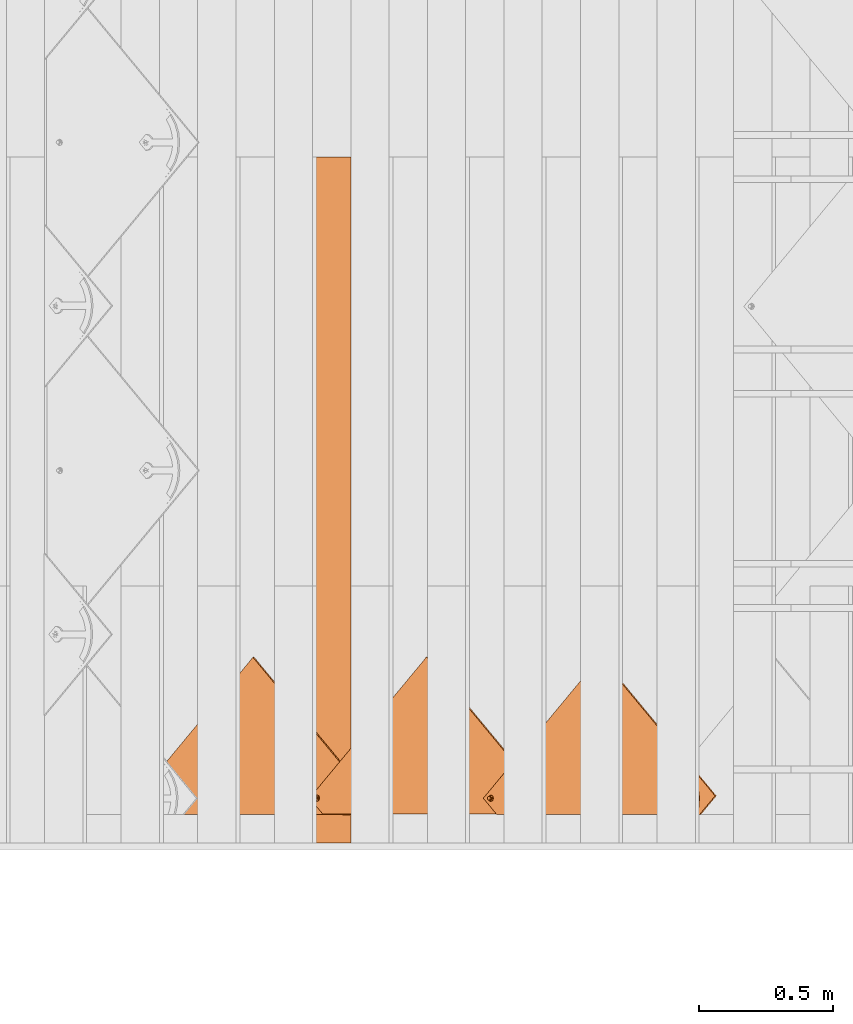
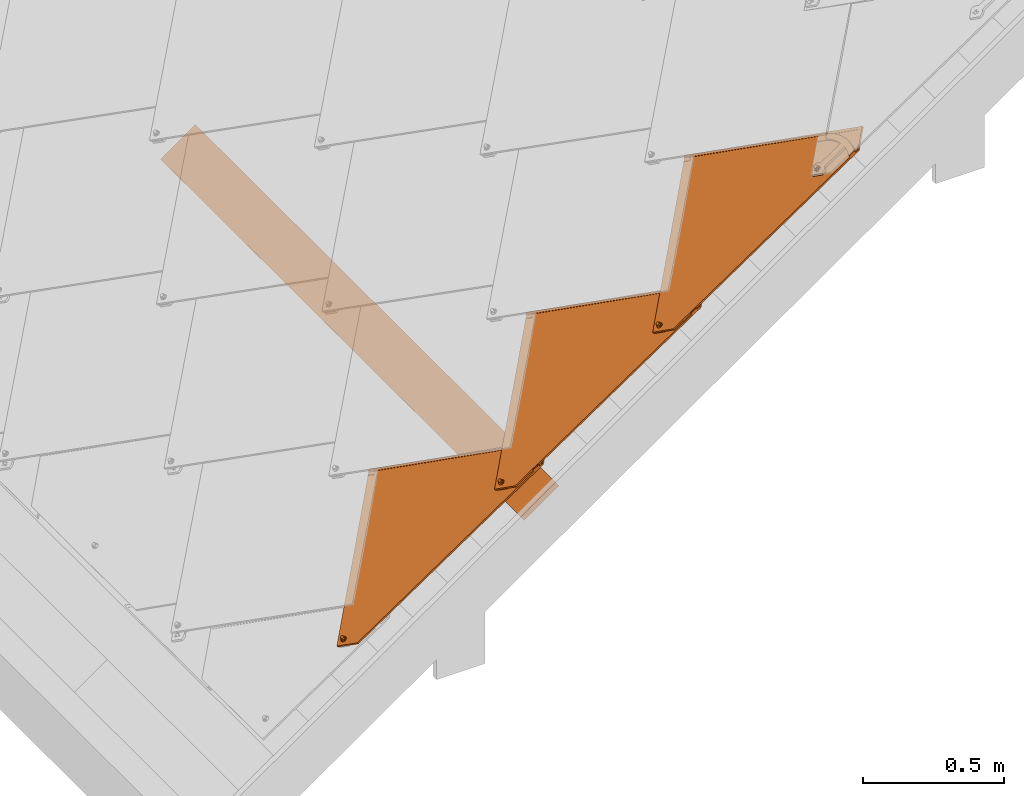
# One storey, part 10 of 151: 4 proxies, 1 element without a shape of its own.
"""IFC2X3 building model written with IfcOpenShell, lengths in millimetres."""

from ifc_helpers import new_model, entity, si_unit, converted_unit, derived_unit, direction, frame, frame_2d, origin, place, context, subcontext, project, spatial, rectangle, extrude, faceted_brep, source, transform, mapped, material, material_list, type_object, type_shapes, element, aggregate, save


model = new_model("IFC2X3")

# Units and contexts
model_context = context("Model", 3, precision=0.01, world=origin(), true_north=direction((6.12303176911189e-17, 1.0)))
body_context = subcontext(model_context, "Body", "Model", "MODEL_VIEW")
ifc_project = project(units=[si_unit("LENGTHUNIT", "METRE", prefix="MILLI"), si_unit("AREAUNIT", "SQUARE_METRE"), si_unit("VOLUMEUNIT", "CUBIC_METRE"), converted_unit("PLANEANGLEUNIT", "DEGREE", entity("IfcRatioMeasure", 0.0174532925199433), si_unit("PLANEANGLEUNIT", "RADIAN"), dimensions=[0, 0, 0, 0, 0, 0, 0]), si_unit("MASSUNIT", "GRAM", prefix="KILO"), derived_unit("MASSDENSITYUNIT", [(si_unit("MASSUNIT", "GRAM", prefix="KILO"), 1), (si_unit("LENGTHUNIT", "METRE"), -3)]), si_unit("TIMEUNIT", "SECOND"), si_unit("FREQUENCYUNIT", "HERTZ"), si_unit("THERMODYNAMICTEMPERATUREUNIT", "DEGREE_CELSIUS"), derived_unit("THERMALTRANSMITTANCEUNIT", [(si_unit("MASSUNIT", "GRAM", prefix="KILO"), 1), (si_unit("THERMODYNAMICTEMPERATUREUNIT", "KELVIN"), -1), (si_unit("TIMEUNIT", "SECOND"), -3)]), derived_unit("VOLUMETRICFLOWRATEUNIT", [(si_unit("LENGTHUNIT", "METRE"), 3), (si_unit("TIMEUNIT", "SECOND"), -1)]), si_unit("ELECTRICCURRENTUNIT", "AMPERE"), si_unit("ELECTRICVOLTAGEUNIT", "VOLT"), si_unit("POWERUNIT", "WATT"), si_unit("FORCEUNIT", "NEWTON", prefix="KILO"), si_unit("ILLUMINANCEUNIT", "LUX"), si_unit("LUMINOUSFLUXUNIT", "LUMEN"), si_unit("LUMINOUSINTENSITYUNIT", "CANDELA"), derived_unit("USERDEFINED", [(si_unit("MASSUNIT", "GRAM", prefix="KILO"), -1), (si_unit("LENGTHUNIT", "METRE"), -2), (si_unit("TIMEUNIT", "SECOND"), 3), (si_unit("LUMINOUSFLUXUNIT", "LUMEN"), 1)]), derived_unit("LINEARVELOCITYUNIT", [(si_unit("LENGTHUNIT", "METRE"), 1), (si_unit("TIMEUNIT", "SECOND"), -1)]), si_unit("PRESSUREUNIT", "PASCAL"), derived_unit("USERDEFINED", [(si_unit("LENGTHUNIT", "METRE"), -2), (si_unit("MASSUNIT", "GRAM", prefix="KILO"), 1), (si_unit("TIMEUNIT", "SECOND"), -2)])], contexts=[model_context])

# Site, building, storey
site_placement = place(None, origin())
site = spatial("IfcSite", under=ifc_project, at=site_placement, Name="Default", CompositionType="ELEMENT")
building_placement = place(site_placement, origin())
building = spatial("IfcBuilding", under=site, at=building_placement, CompositionType="ELEMENT")
storey_placement = place(building_placement, origin())
storey = spatial("IfcBuildingStorey", under=building, at=storey_placement, Name="Level 1", CompositionType="ELEMENT", Elevation=0.0)

# Assembly, proxy
assembly_placement = place(storey_placement, origin())
assembly = element("IfcElementAssembly", 1, at=assembly_placement, inside=storey, Name="Structural Framing Assembly:Roof Construction Assembly", ObjectType="Structural Framing Assembly:Roof Construction Assembly", AssemblyPlace="NOTDEFINED", PredefinedType="USERDEFINED")
ifc_material_1 = material(Name="Wood - Generic - Wood For Showcase")
building_element_proxy_type_1 = type_object("IfcBuildingElementProxyType", Name="Structural Framing 15", PredefinedType="NOTDEFINED", material=ifc_material_1)
shared_shape_1 = source(origin(), body_context, "Body", "SweptSolid", [
    extrude(rectangle(XDim=24.9999999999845, YDim=174.344679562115, at=frame_2d((-1.77635683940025e-13, -4.54747350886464e-13), x_axis=(0.0, 1.0))), frame((1128.20180147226, 1437.09519417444, 2760.23940055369), z_axis=(0.0, 1.0, 0.0), x_axis=(-0.819152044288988, 0.0, -0.573576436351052)), (0.0, 0.0, 1.0), 2558.4556079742),
])
type_shapes(building_element_proxy_type_1, [shared_shape_1])
proxy_1_placement = place(assembly_placement, frame((-2370.36374035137, -8140.0, -1700.0)))
proxy_1 = element("IfcBuildingElementProxy", 2, at=proxy_1_placement, type_object=building_element_proxy_type_1, material=ifc_material_1, Name="Structural Framing 103:Structural Framing 15", ObjectType="Structural Framing 103:Structural Framing 15", context=body_context, shape_type="MappedRepresentation", body=[
    mapped(shared_shape_1, transform((0.0, 0.0, 0.0), scale=1.0)),
])
aggregate(assembly, [proxy_1])

# Proxies
ifc_material_2 = material(Name="Rubber - Sunstyle - Black")
ifc_material_3 = material(Name="Glass - Sunstyle - Tainted Black")
ifc_material_list_1 = material_list([ifc_material_2, ifc_material_3])
ifc_material_list_2 = material_list([ifc_material_2, ifc_material_3])
building_element_proxy_type_2 = type_object("IfcBuildingElementProxyType", Name="Shingle Right - Black", PredefinedType="NOTDEFINED", material=ifc_material_list_2)
shared_shape_2 = source(origin(), body_context, "Body", "Brep", [
    faceted_brep([(526.70519509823, 41.3127833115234, 3.87722628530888), (520.930992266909, 37.9795131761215, 3.9330502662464), (520.930992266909, 38.34782226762, 25.9249196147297), (526.70519509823, 41.6810924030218, 25.8690956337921), (520.930992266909, 31.3129729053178, 4.0446982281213), (520.930992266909, 31.6812819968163, 26.0365675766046), (526.70519509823, 27.979702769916, 4.1005222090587), (526.70519509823, 28.3480118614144, 26.092391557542), (532.47939792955, 31.3129729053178, 4.04469822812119), (532.47939792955, 31.6812819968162, 26.0365675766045), (532.47939792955, 37.9795131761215, 3.93305026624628), (532.47939792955, 38.3478222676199, 25.9249196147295), (518.101490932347, 26.4120542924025, 26.1248140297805), (526.70519509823, 22.8487830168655, 26.1844899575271), (514.537719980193, 35.0145521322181, 25.9807435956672), (518.101490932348, 43.6170499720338, 25.8366731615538), (526.70519509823, 47.1803212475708, 25.776997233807), (535.308899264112, 43.6170499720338, 25.8366731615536), (538.872670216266, 35.0145521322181, 25.9807435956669), (535.308899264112, 26.4120542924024, 26.1248140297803), (515.380950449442, 37.3096292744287, 28.2935855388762), (516.94872054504, 35.0855670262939, 30.2210682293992), (526.70519509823, 42.3986422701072, 30.8537686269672), (526.70519509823, 43.6391399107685, 30.2734219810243), (526.70519509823, 45.7966907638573, 29.2640469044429), (526.70519509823, 23.4048270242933, 27.4595479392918), (526.70519509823, 24.3484036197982, 29.6232523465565), (526.70519509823, 27.7977793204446, 31.0982967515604), (526.70519509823, 46.6672851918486, 27.0699596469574), (520.381949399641, 31.4479950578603, 31.0371647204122), (520.381949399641, 38.7484265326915, 30.9149006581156), (538.029439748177, 32.7982090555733, 28.3691406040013), (536.554075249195, 34.0111605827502, 30.1422000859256), (533.028440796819, 38.7484265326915, 30.9149006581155), (533.028440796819, 31.4479950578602, 31.0371647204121), (520.381949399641, 31.5820235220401, 39.0400528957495), (526.70519509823, 27.9318077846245, 39.1011849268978), (526.70519509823, 35.2322392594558, 38.9789208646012), (520.381949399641, 38.8824549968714, 38.9177888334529), (533.028440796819, 31.5820235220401, 39.0400528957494), (533.028440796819, 38.8824549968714, 38.9177888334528), (526.70519509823, 42.532670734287, 38.8566568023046), (526.70519509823, 34.6462430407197, 3.98887424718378)], [[[0, 1, 2, 3]], [[1, 4, 5, 2]], [[4, 6, 7, 5]], [[6, 8, 9, 7]], [[8, 10, 11, 9]], [[10, 0, 3, 11]], [[12, 7, 13]], [[7, 12, 5]], [[14, 5, 12]], [[5, 14, 2]], [[15, 2, 14]], [[3, 2, 15]], [[15, 16, 3]], [[16, 17, 3]], [[11, 3, 17]], [[11, 17, 18]], [[9, 11, 18]], [[18, 19, 9]], [[7, 9, 19]], [[19, 13, 7]], [[20, 14, 12]], [[21, 22, 23, 24]], [[24, 20, 21]], [[25, 20, 12]], [[26, 27, 21]], [[15, 14, 20]], [[12, 13, 25]], [[20, 28, 15]], [[28, 20, 24]], [[21, 27, 29]], [[21, 29, 30]], [[26, 21, 20]], [[20, 25, 26]], [[15, 28, 16]], [[21, 30, 22]], [[31, 18, 17]], [[28, 31, 17]], [[32, 27, 26]], [[26, 31, 32]], [[26, 25, 31]], [[25, 19, 31]], [[17, 16, 28]], [[31, 19, 18]], [[24, 31, 28]], [[33, 34, 32]], [[23, 22, 33]], [[24, 32, 31]], [[27, 32, 34]], [[32, 23, 33]], [[19, 25, 13]], [[32, 24, 23]], [[35, 36, 37]], [[37, 38, 35]], [[36, 39, 37]], [[40, 37, 39]], [[37, 40, 41]], [[37, 41, 38]], [[42, 6, 4]], [[4, 1, 42]], [[1, 0, 42]], [[42, 8, 6]], [[0, 10, 42]], [[8, 42, 10]], [[22, 30, 38, 41]], [[30, 29, 35, 38]], [[29, 27, 36, 35]], [[27, 34, 39, 36]], [[34, 33, 40, 39]], [[33, 22, 41, 40]]]),
    faceted_brep([(526.70519509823, 811.19100538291, 21.4210230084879), (526.70519509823, 815.690374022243, 21.3456697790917), (518.101490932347, 814.754276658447, 21.3613470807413), (535.308899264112, 814.754276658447, 21.3613470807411), (533.345423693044, 819.523574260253, 21.2814732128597), (538.872670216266, 823.356774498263, 21.2172766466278), (533.345423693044, 827.189974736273, 21.1530800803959), (535.308899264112, 831.959272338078, 21.0732062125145), (526.70519509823, 831.023174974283, 21.0888835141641), (526.70519509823, 835.522543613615, 21.0135302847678), (518.101490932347, 831.959272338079, 21.0732062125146), (520.064966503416, 827.189974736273, 21.1530800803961), (514.537719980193, 823.356774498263, 21.217276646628), (520.064966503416, 819.523574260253, 21.2814732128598), (520.064966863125, 826.922051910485, 5.15532344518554), (526.70519509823, 830.755251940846, 5.09112688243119), (520.064966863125, 819.255651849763, 5.2837165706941), (526.70519509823, 815.422451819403, 5.34791313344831), (533.345423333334, 819.255651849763, 5.28371657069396), (533.345423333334, 826.922051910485, 5.1553234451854), (518.101490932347, 814.486354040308, 5.36359044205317), (526.70519509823, 810.923082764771, 5.4232663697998), (514.537719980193, 823.088851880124, 5.21952000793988), (518.101490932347, 831.69134971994, 5.07544957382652), (526.70519509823, 835.254620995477, 5.01577364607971), (535.308899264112, 831.69134971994, 5.07544957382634), (538.872670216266, 823.088851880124, 5.21952000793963), (535.308899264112, 814.486354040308, 5.36359044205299)], [[[0, 1, 2]], [[1, 0, 3]], [[3, 4, 1]], [[4, 3, 5]], [[6, 4, 5]], [[5, 7, 6]], [[7, 8, 6]], [[8, 7, 9]], [[8, 9, 10]], [[10, 11, 8]], [[12, 11, 10]], [[2, 13, 12]], [[12, 13, 11]], [[13, 2, 1]], [[8, 11, 14, 15]], [[11, 13, 16, 14]], [[13, 1, 17, 16]], [[1, 4, 18, 17]], [[4, 6, 19, 18]], [[6, 8, 15, 19]], [[20, 17, 21]], [[17, 20, 16]], [[22, 16, 20]], [[14, 16, 22]], [[23, 14, 22]], [[15, 14, 23]], [[23, 24, 15]], [[24, 25, 15]], [[19, 15, 25]], [[19, 25, 26]], [[26, 18, 19]], [[26, 27, 18]], [[17, 18, 27]], [[27, 21, 17]], [[24, 23, 10, 9]], [[10, 23, 22, 12]], [[20, 21, 0, 2]], [[20, 2, 12, 22]], [[21, 27, 3, 0]], [[3, 27, 26, 5]], [[25, 24, 9, 7]], [[25, 7, 5, 26]]]),
    faceted_brep([(578.30986553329, 967.15023469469, 8.79467739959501), (586.794551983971, 975.634921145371, 8.65258001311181), (586.794551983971, 975.660038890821, 10.1523696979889), (578.30986553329, 967.17535244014, 10.294467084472), (517.891471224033, 1027.55168765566, 7.7831033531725), (8.48468645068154, 518.287740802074, 16.3120073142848), (0.0, 526.772427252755, 16.1699099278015), (517.891471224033, 1044.51868144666, 7.49894842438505), (517.891471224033, 1044.54379919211, 8.99873810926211), (0.0, 526.797544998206, 17.6696996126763), (8.4846864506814, 518.312858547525, 17.8117969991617), (517.891471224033, 1027.57680540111, 9.28289303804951)], [[[0, 1, 2, 3]], [[1, 0, 4, 5, 6, 7]], [[2, 1, 7, 8]], [[3, 2, 8, 9, 10, 11]], [[0, 3, 11, 4]], [[5, 10, 9, 6]], [[8, 7, 6, 9]], [[4, 11, 10, 5]]]),
    faceted_brep([(586.794551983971, 975.634921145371, 8.65258001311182), (517.891471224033, 1044.51868144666, 7.49894842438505), (523.812678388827, 834.561085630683, 11.0152157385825), (526.918506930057, 834.969918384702, 11.0083688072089), (530.024335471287, 834.561085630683, 11.0152157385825), (532.918506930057, 833.362448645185, 11.0352899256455), (535.403788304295, 831.455692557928, 11.0672233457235), (537.31081177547, 828.970759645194, 11.1088397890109), (538.509616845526, 826.076993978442, 11.1573031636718), (538.918506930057, 822.971600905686, 11.2093107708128), (538.509616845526, 819.86620783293, 11.2613183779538), (586.79455198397, 60.1087646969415, 23.9853651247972), (520.918506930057, 833.362448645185, 11.0352899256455), (518.433225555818, 831.455692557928, 11.0672233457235), (516.526202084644, 828.970759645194, 11.1088397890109), (515.327397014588, 826.076993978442, 11.1573031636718), (0.0, 526.772427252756, 16.1699099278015), (514.918506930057, 822.971600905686, 11.2093107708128), (515.327397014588, 819.86620783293, 11.2613183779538), (516.526202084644, 816.972442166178, 11.3097817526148), (518.433225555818, 814.487509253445, 11.3513981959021), (520.918506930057, 812.580753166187, 11.3833316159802), (523.812678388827, 811.382116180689, 11.4034058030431), (524.667140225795, 42.642731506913, 24.2778777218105), (522.737692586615, 41.8436401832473, 24.2912605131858), (521.080838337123, 40.572469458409, 24.3125494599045), (519.80948935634, 38.9158475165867, 24.3402937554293), (519.010285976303, 36.9866704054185, 24.37260267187), (518.737692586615, 34.9164083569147, 24.407274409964), (519.010285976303, 32.8461463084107, 24.441946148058), (526.794551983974, 0.125588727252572, 24.989934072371), (519.80948935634, 30.9169691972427, 24.4742550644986), (533.665895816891, 30.9169691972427, 24.4742550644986), (532.394546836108, 29.2603472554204, 24.5019993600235), (530.737692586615, 27.9891765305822, 24.5232883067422), (528.808244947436, 27.1900852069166, 24.5366710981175), (526.737692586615, 26.9175300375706, 24.5412357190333), (524.667140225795, 27.1900852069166, 24.5366710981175), (522.737692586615, 27.9891765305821, 24.5232883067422), (521.080838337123, 29.2603472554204, 24.5019993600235), (526.737692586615, 42.9152866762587, 24.2733131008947), (528.808244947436, 42.6427315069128, 24.2778777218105), (530.737692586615, 41.8436401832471, 24.2912605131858), (532.394546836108, 40.572469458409, 24.3125494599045), (533.665895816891, 38.9158475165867, 24.3402937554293), (534.465099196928, 36.9866704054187, 24.37260267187), (534.737692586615, 34.9164083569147, 24.407274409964), (534.465099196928, 32.8461463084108, 24.441946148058), (526.918506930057, 810.97328342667, 11.4102527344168), (537.31081177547, 816.972442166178, 11.3097817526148), (535.403788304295, 814.487509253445, 11.3513981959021), (532.918506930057, 812.580753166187, 11.3833316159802), (530.024335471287, 811.382116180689, 11.4034058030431), (0.0, 526.646838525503, 8.67096150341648), (519.80948935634, 38.790258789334, 16.8413453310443), (519.010285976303, 36.8610816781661, 16.8736542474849), (521.080838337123, 40.4468807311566, 16.8136010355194), (518.737692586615, 34.7908196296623, 16.9083259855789), (519.010285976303, 32.7205575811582, 16.9429977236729), (526.794551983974, 0.0, 17.4909856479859), (522.737692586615, 41.7180514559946, 16.7923120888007), (524.667140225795, 42.5171427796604, 16.7789292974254), (523.812678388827, 811.256527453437, 3.90445737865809), (520.918506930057, 812.455164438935, 3.88438319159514), (518.433225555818, 814.361920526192, 3.85244977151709), (516.526202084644, 816.846853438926, 3.81083332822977), (515.327397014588, 819.740619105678, 3.76236995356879), (514.918506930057, 822.846012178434, 3.71036234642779), (515.327397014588, 825.95140525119, 3.65835473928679), (517.891471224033, 1044.39309271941, 0.0), (516.526202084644, 828.845170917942, 3.60989136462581), (518.433225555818, 831.330103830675, 3.56827492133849), (520.918506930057, 833.236859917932, 3.53634150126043), (523.812678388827, 834.435496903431, 3.51626731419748), (586.794551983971, 975.509332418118, 1.15363158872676), (526.918506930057, 834.84432965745, 3.50942038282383), (530.024335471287, 834.435496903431, 3.51626731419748), (532.918506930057, 833.236859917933, 3.53634150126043), (535.403788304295, 831.330103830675, 3.56827492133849), (537.31081177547, 828.845170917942, 3.60989136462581), (538.509616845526, 825.95140525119, 3.65835473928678), (538.918506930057, 822.846012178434, 3.71036234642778), (538.509616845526, 819.740619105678, 3.76236995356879), (586.79455198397, 59.983175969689, 16.4864167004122), (526.737692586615, 42.7896979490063, 16.7743646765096), (528.808244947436, 42.5171427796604, 16.7789292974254), (530.737692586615, 41.7180514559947, 16.7923120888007), (532.394546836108, 40.4468807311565, 16.8136010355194), (533.665895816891, 30.7913804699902, 16.9753066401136), (534.465099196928, 32.7205575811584, 16.9429977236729), (534.737692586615, 34.7908196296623, 16.9083259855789), (534.465099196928, 36.8610816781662, 16.8736542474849), (533.665895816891, 38.7902587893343, 16.8413453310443), (526.918506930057, 810.847694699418, 3.91130431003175), (530.024335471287, 811.256527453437, 3.90445737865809), (532.918506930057, 812.455164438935, 3.88438319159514), (535.403788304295, 814.361920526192, 3.85244977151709), (537.31081177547, 816.846853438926, 3.81083332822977), (519.80948935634, 30.7913804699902, 16.9753066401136), (521.080838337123, 29.134758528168, 17.0030509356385), (522.737692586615, 27.8635878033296, 17.0243398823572), (524.667140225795, 27.0644964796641, 17.0377226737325), (526.737692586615, 26.7919413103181, 17.0422872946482), (528.808244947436, 27.0644964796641, 17.0377226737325), (530.737692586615, 27.8635878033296, 17.0243398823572), (532.394546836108, 29.1347585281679, 17.0030509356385)], [[[0, 1, 2]], [[0, 2, 3]], [[3, 4, 0]], [[4, 5, 0]], [[0, 5, 6]], [[6, 7, 0]], [[7, 8, 0]], [[8, 9, 0]], [[9, 10, 0]], [[0, 10, 11]], [[2, 1, 12]], [[13, 12, 1]], [[14, 13, 1]], [[14, 1, 15]], [[15, 1, 16]], [[16, 17, 15]], [[17, 16, 18]], [[19, 18, 16]], [[19, 16, 20]], [[21, 20, 16]], [[22, 21, 16]], [[23, 22, 16]], [[24, 23, 16]], [[16, 25, 24]], [[25, 16, 26]], [[26, 16, 27]], [[28, 27, 16]], [[28, 16, 29]], [[29, 16, 30]], [[30, 31, 29]], [[11, 32, 30]], [[30, 32, 33]], [[34, 30, 33]], [[34, 35, 30]], [[36, 30, 35]], [[30, 36, 37]], [[37, 38, 30]], [[38, 39, 30]], [[39, 31, 30]], [[23, 11, 22]], [[11, 23, 40]], [[11, 40, 41]], [[11, 41, 42]], [[42, 43, 11]], [[44, 11, 43]], [[44, 45, 11]], [[45, 46, 11]], [[47, 11, 46]], [[11, 47, 32]], [[22, 11, 48]], [[10, 49, 11]], [[49, 50, 11]], [[50, 51, 11]], [[51, 52, 11]], [[52, 48, 11]], [[53, 54, 55]], [[54, 53, 56]], [[53, 55, 57]], [[57, 58, 53]], [[53, 58, 59]], [[60, 56, 53]], [[61, 60, 53]], [[61, 53, 62]], [[62, 53, 63]], [[53, 64, 63]], [[64, 53, 65]], [[65, 53, 66]], [[66, 53, 67]], [[67, 53, 68]], [[53, 69, 68]], [[70, 68, 69]], [[71, 70, 69]], [[69, 72, 71]], [[73, 72, 69]], [[73, 69, 74]], [[75, 73, 74]], [[75, 74, 76]], [[77, 76, 74]], [[74, 78, 77]], [[79, 78, 74]], [[80, 79, 74]], [[80, 74, 81]], [[81, 74, 82]], [[82, 74, 83]], [[84, 61, 83]], [[83, 85, 84]], [[86, 85, 83]], [[83, 87, 86]], [[59, 88, 83]], [[83, 88, 89]], [[90, 83, 89]], [[90, 91, 83]], [[91, 92, 83]], [[87, 83, 92]], [[62, 83, 61]], [[93, 83, 62]], [[83, 93, 94]], [[94, 95, 83]], [[83, 95, 96]], [[96, 97, 83]], [[97, 82, 83]], [[59, 58, 98]], [[99, 59, 98]], [[99, 100, 59]], [[100, 101, 59]], [[102, 59, 101]], [[59, 102, 103]], [[59, 103, 104]], [[104, 105, 59]], [[105, 88, 59]], [[16, 1, 69, 53]], [[30, 16, 53, 59]], [[11, 30, 59, 83]], [[1, 0, 74, 69]], [[28, 57, 55, 27]], [[27, 55, 54, 26]], [[24, 25, 56, 60]], [[56, 25, 26, 54]], [[23, 24, 60, 61]], [[23, 61, 84, 40]], [[40, 84, 85, 41]], [[41, 85, 86, 42]], [[44, 43, 87, 92]], [[87, 43, 42, 86]], [[45, 44, 92, 91]], [[45, 91, 90, 46]], [[46, 90, 89, 47]], [[47, 89, 88, 32]], [[34, 33, 105, 104]], [[105, 33, 32, 88]], [[35, 34, 104, 103]], [[35, 103, 102, 36]], [[36, 102, 101, 37]], [[37, 101, 100, 38]], [[31, 39, 99, 98]], [[39, 38, 100, 99]], [[58, 29, 31, 98]], [[29, 58, 57, 28]], [[17, 67, 68, 15]], [[15, 68, 70, 14]], [[12, 13, 71, 72]], [[71, 13, 14, 70]], [[2, 12, 72, 73]], [[2, 73, 75, 3]], [[3, 75, 76, 4]], [[4, 76, 77, 5]], [[7, 6, 78, 79]], [[78, 6, 5, 77]], [[8, 7, 79, 80]], [[8, 80, 81, 9]], [[9, 81, 82, 10]], [[10, 82, 97, 49]], [[51, 50, 96, 95]], [[96, 50, 49, 97]], [[52, 51, 95, 94]], [[52, 94, 93, 48]], [[48, 93, 62, 22]], [[22, 62, 63, 21]], [[19, 20, 64, 65]], [[64, 20, 21, 63]], [[18, 19, 65, 66]], [[18, 66, 67, 17]], [[0, 11, 83, 74]]]),
    faceted_brep([(503.195324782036, 841.557074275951, 20.8994526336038), (517.914693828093, 832.008099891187, 21.0593741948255), (507.695869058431, 846.190079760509, 20.8218613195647), (516.007670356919, 829.523166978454, 21.1009906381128), (499.815755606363, 836.052923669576, 20.9916334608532), (514.808865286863, 826.629401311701, 21.1494540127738), (497.720422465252, 829.943523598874, 21.0939507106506), (514.399975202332, 823.524008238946, 21.2014616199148), (497.010547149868, 823.524008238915, 21.2014616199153), (514.808865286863, 820.41861516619, 21.2534692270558), (516.007670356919, 817.524849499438, 21.3019326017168), (517.914693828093, 815.039916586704, 21.3435490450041), (526.399975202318, 794.138700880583, 21.6935924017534), (520.399975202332, 813.133160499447, 21.3754824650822), (523.294146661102, 811.934523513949, 21.3955566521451), (526.399975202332, 811.52569075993, 21.4024035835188), (529.505803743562, 811.934523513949, 21.3955566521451), (532.399975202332, 813.133160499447, 21.3754824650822), (534.885256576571, 815.039916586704, 21.3435490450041), (555.789403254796, 823.524008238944, 21.2014616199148), (536.792280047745, 817.524849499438, 21.3019326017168), (537.991085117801, 820.41861516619, 21.2534692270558), (538.399975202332, 823.524008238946, 21.2014616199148), (555.079527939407, 829.943523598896, 21.0939507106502), (537.991085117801, 826.629401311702, 21.1494540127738), (552.984194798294, 836.052923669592, 20.9916334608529), (536.792280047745, 829.523166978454, 21.1009906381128), (549.604625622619, 841.557074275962, 20.8994526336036), (534.88525657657, 832.008099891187, 21.0593741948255), (545.104081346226, 846.190079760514, 20.8218613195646), (532.399975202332, 833.914855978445, 21.0274407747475), (539.69997520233, 849.728127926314, 20.7626078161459), (529.505803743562, 835.113492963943, 21.0073665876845), (526.399975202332, 835.522325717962, 21.0005196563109), (513.09997520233, 849.728127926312, 20.762607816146), (513.099975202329, 947.789128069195, 19.1203300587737), (539.699975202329, 948.373752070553, 19.1105390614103), (522.252457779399, 973.425526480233, 18.6909841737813), (556.520926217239, 971.308509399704, 18.7264389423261), (565.239246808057, 944.126992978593, 19.1816617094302), (589.568348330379, 961.999667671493, 18.8823388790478), (589.568348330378, 935.274464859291, 19.3299195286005), (488.310294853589, 968.25512753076, 18.7775754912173), (488.729131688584, 942.717602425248, 19.2052654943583), (456.227055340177, 956.030775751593, 18.9823029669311), (465.633151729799, 933.432284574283, 19.3607714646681), (444.534595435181, 920.223666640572, 19.5819829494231), (427.451419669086, 937.304447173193, 19.2959223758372), (520.399975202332, 833.914855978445, 21.0274407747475), (523.294146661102, 835.113492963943, 21.0073665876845), (526.399975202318, 793.971249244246, 11.6949945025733), (526.399975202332, 811.358239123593, 11.4038056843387), (529.505803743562, 811.767071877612, 11.396958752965), (523.294146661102, 811.767071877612, 11.396958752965), (532.399975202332, 812.96570886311, 11.3768845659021), (534.885256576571, 814.872464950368, 11.344951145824), (555.789403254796, 823.356556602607, 11.2028637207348), (520.399975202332, 812.96570886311, 11.3768845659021), (517.914693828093, 814.872464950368, 11.344951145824), (497.010547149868, 823.356556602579, 11.2028637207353), (516.007670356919, 817.357397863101, 11.3033347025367), (514.808865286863, 820.251163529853, 11.2548713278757), (514.399975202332, 823.356556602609, 11.2028637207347), (497.720422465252, 829.776071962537, 11.0953528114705), (514.808865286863, 826.461949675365, 11.1508561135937), (499.815755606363, 835.885472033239, 10.9930355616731), (516.007670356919, 829.355715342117, 11.1023927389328), (503.195324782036, 841.389622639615, 10.9008547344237), (517.914693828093, 831.84064825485, 11.0607762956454), (507.695869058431, 846.022628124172, 10.8232634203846), (520.399975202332, 833.747404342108, 11.0288428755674), (513.09997520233, 849.560676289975, 10.7640099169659), (523.294146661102, 834.946041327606, 11.0087686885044), (526.399975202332, 835.354874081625, 11.0019217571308), (539.69997520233, 849.560676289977, 10.7640099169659), (513.099975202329, 947.621676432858, 9.12173215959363), (539.69997520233, 948.206300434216, 9.11194116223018), (522.252457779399, 973.258074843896, 8.69238627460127), (488.310294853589, 968.087675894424, 8.77897759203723), (488.729131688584, 942.550150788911, 9.20666759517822), (456.227055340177, 955.863324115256, 8.98370506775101), (465.633151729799, 933.264832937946, 9.36217356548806), (444.533467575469, 920.055518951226, 9.58339670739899), (428.044288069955, 936.544210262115, 9.30725215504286), (421.793762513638, 931.184466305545, 9.39701453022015), (415.826529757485, 925.515365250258, 9.49195786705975), (418.207622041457, 893.733364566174, 10.0242272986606), (401.122816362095, 910.815774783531, 9.73813943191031), (427.451419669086, 937.136995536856, 9.29732447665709), (556.520926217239, 971.141057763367, 8.727841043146), (565.239246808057, 943.959541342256, 9.18306381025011), (589.568348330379, 961.832216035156, 8.88374097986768), (589.568348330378, 935.107013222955, 9.33132162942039), (529.505803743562, 834.946041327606, 11.0087686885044), (532.399975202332, 833.747404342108, 11.0288428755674), (545.104081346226, 846.022628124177, 10.8232634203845), (534.88525657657, 831.84064825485, 11.0607762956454), (549.604625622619, 841.389622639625, 10.9008547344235), (536.792280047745, 829.355715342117, 11.1023927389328), (552.984194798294, 835.885472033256, 10.9930355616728), (537.991085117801, 826.461949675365, 11.1508561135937), (555.079527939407, 829.77607196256, 11.0953528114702), (538.399975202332, 823.356556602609, 11.2028637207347), (537.991085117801, 820.251163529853, 11.2548713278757), (536.792280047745, 817.357397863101, 11.3033347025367), (415.826529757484, 925.557228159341, 11.9916073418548), (401.122816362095, 910.857637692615, 12.2377889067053), (418.207622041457, 893.775227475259, 12.5238767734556), (444.534595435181, 920.09807791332, 12.083034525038), (428.042008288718, 936.584216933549, 11.8069327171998), (421.793762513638, 931.226329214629, 11.8966640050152)], [[[0, 1, 2]], [[3, 1, 0]], [[4, 3, 0]], [[5, 3, 4]], [[4, 6, 5]], [[6, 7, 5]], [[7, 6, 8]], [[9, 7, 8]], [[10, 9, 8]], [[10, 8, 11]], [[8, 12, 11]], [[13, 11, 12]], [[13, 12, 14]], [[12, 15, 14]], [[15, 12, 16]], [[16, 12, 17]], [[18, 17, 12]], [[18, 12, 19]], [[19, 20, 18]], [[21, 20, 19]], [[22, 21, 19]], [[19, 23, 22]], [[24, 22, 23]], [[23, 25, 24]], [[25, 26, 24]], [[26, 25, 27]], [[28, 26, 27]], [[27, 29, 28]], [[30, 28, 29]], [[29, 31, 30]], [[30, 31, 32]], [[32, 31, 33]], [[31, 34, 33]], [[35, 34, 31]], [[35, 31, 36]], [[36, 37, 35]], [[36, 38, 37]], [[39, 38, 36]], [[38, 39, 40]], [[41, 40, 39]], [[37, 42, 35]], [[35, 42, 43]], [[43, 42, 44]], [[44, 45, 43]], [[44, 46, 45]], [[46, 44, 47]], [[48, 34, 2]], [[48, 49, 34]], [[34, 49, 33]], [[48, 2, 1]], [[50, 51, 52]], [[51, 50, 53]], [[50, 52, 54]], [[54, 55, 50]], [[50, 55, 56]], [[57, 53, 50]], [[58, 57, 50]], [[58, 50, 59]], [[59, 60, 58]], [[60, 59, 61]], [[61, 59, 62]], [[63, 62, 59]], [[64, 62, 63]], [[63, 65, 64]], [[64, 65, 66]], [[65, 67, 66]], [[68, 66, 67]], [[69, 68, 67]], [[69, 70, 68]], [[70, 69, 71]], [[71, 72, 70]], [[71, 73, 72]], [[74, 73, 71]], [[71, 75, 74]], [[75, 76, 74]], [[76, 75, 77]], [[77, 75, 78]], [[79, 78, 75]], [[80, 78, 79]], [[79, 81, 80]], [[81, 82, 80]], [[82, 83, 80]], [[84, 83, 82]], [[84, 82, 85]], [[82, 86, 85]], [[86, 87, 85]], [[83, 88, 80]], [[76, 77, 89]], [[89, 90, 76]], [[90, 89, 91]], [[91, 92, 90]], [[93, 73, 74]], [[74, 94, 93]], [[94, 74, 95]], [[95, 96, 94]], [[95, 97, 96]], [[96, 97, 98]], [[99, 98, 97]], [[99, 100, 98]], [[101, 100, 99]], [[102, 100, 101]], [[56, 102, 101]], [[103, 102, 56]], [[56, 55, 104]], [[103, 56, 104]], [[34, 35, 75, 71]], [[2, 34, 71, 69]], [[0, 2, 69, 67]], [[67, 65, 4, 0]], [[6, 4, 65, 63]], [[8, 6, 63, 59]], [[12, 8, 59, 50]], [[19, 12, 50, 56]], [[23, 19, 56, 101]], [[25, 23, 101, 99]], [[99, 97, 27, 25]], [[29, 27, 97, 95]], [[31, 29, 95, 74]], [[36, 31, 74, 76]], [[38, 40, 91, 89]], [[37, 38, 89, 77]], [[77, 78, 42, 37]], [[44, 42, 78, 80]], [[47, 44, 80, 88]], [[7, 62, 64, 5]], [[5, 64, 66, 3]], [[48, 1, 68, 70]], [[66, 68, 1, 3]], [[49, 48, 70, 72]], [[73, 33, 49, 72]], [[32, 93, 94, 30]], [[30, 94, 96, 28]], [[24, 26, 98, 100]], [[96, 98, 26, 28]], [[22, 24, 100, 102]], [[32, 33, 73, 93]], [[22, 102, 103, 21]], [[21, 103, 104, 20]], [[17, 18, 55, 54]], [[104, 55, 18, 20]], [[16, 17, 54, 52]], [[51, 15, 16, 52]], [[14, 53, 57, 13]], [[13, 57, 58, 11]], [[9, 10, 60, 61]], [[58, 60, 10, 11]], [[7, 9, 61, 62]], [[14, 15, 51, 53]], [[105, 106, 107, 108, 109, 110]], [[107, 106, 87, 86]], [[108, 107, 82]], [[86, 82, 107]], [[109, 83, 110]], [[110, 83, 84]], [[84, 85, 105, 110]], [[106, 105, 85, 87]], [[46, 47, 109]], [[109, 47, 88]], [[46, 109, 108]], [[83, 109, 88]], [[108, 81, 45, 46]], [[108, 82, 81]], [[79, 75, 35, 43]], [[81, 79, 43, 45]], [[76, 90, 39, 36]], [[92, 41, 39, 90]], [[40, 41, 92, 91]]]),
])
type_shapes(building_element_proxy_type_2, [shared_shape_2])
proxy_2_placement = place(storey_placement, frame((-669.455168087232, -6009.69177671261, 1476.67033522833), z_axis=(-0.57357643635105, 0.0, 0.819152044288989), x_axis=(0.0, -1.0, 0.0)))
element("IfcBuildingElementProxy", 3, at=proxy_2_placement, inside=storey, type_object=building_element_proxy_type_2, material=ifc_material_list_1, Name="Roofing_Panels_SunStyle_Tile_Shingle-Right:Shingle Right - Black", ObjectType="Roofing_Panels_SunStyle_Tile_Shingle-Right:Shingle Right - Black", context=body_context, shape_type="MappedRepresentation", body=[
    mapped(shared_shape_2, transform((0.0, 0.0, 0.0), scale=1.0)),
])
ifc_material_list_3 = material_list([ifc_material_2, ifc_material_3])
proxy_3_placement = place(storey_placement, frame((-1317.66701909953, -6009.28858968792, 1022.78751079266), z_axis=(-0.57357643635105, 0.0, 0.819152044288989), x_axis=(0.0, -1.0, 0.0)))
element("IfcBuildingElementProxy", 4, at=proxy_3_placement, inside=storey, type_object=building_element_proxy_type_2, material=ifc_material_list_3, Name="Roofing_Panels_SunStyle_Tile_Shingle-Right:Shingle Right - Black", ObjectType="Roofing_Panels_SunStyle_Tile_Shingle-Right:Shingle Right - Black", context=body_context, shape_type="MappedRepresentation", body=[
    mapped(shared_shape_2, transform((0.0, 0.0, 0.0), scale=1.0)),
])
ifc_material_list_4 = material_list([ifc_material_2, ifc_material_3])
proxy_4_placement = place(storey_placement, frame((-1965.03317433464, -6010.26027281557, 569.49684891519), z_axis=(-0.57357643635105, 0.0, 0.819152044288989), x_axis=(0.0, -1.0, 0.0)))
element("IfcBuildingElementProxy", 5, at=proxy_4_placement, inside=storey, type_object=building_element_proxy_type_2, material=ifc_material_list_4, Name="Roofing_Panels_SunStyle_Tile_Shingle-Right:Shingle Right - Black", ObjectType="Roofing_Panels_SunStyle_Tile_Shingle-Right:Shingle Right - Black", context=body_context, shape_type="MappedRepresentation", body=[
    mapped(shared_shape_2, transform((0.0, 0.0, 0.0), scale=1.0)),
])

save(model, "model.ifc")
